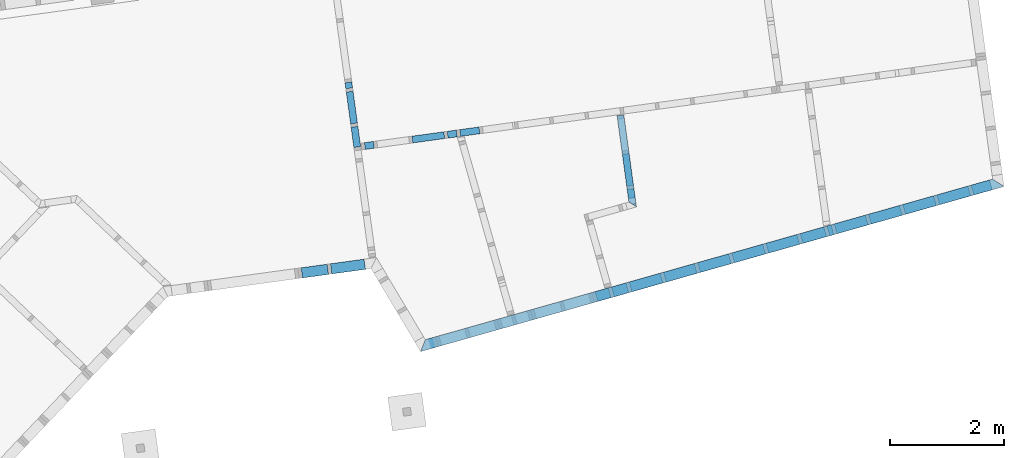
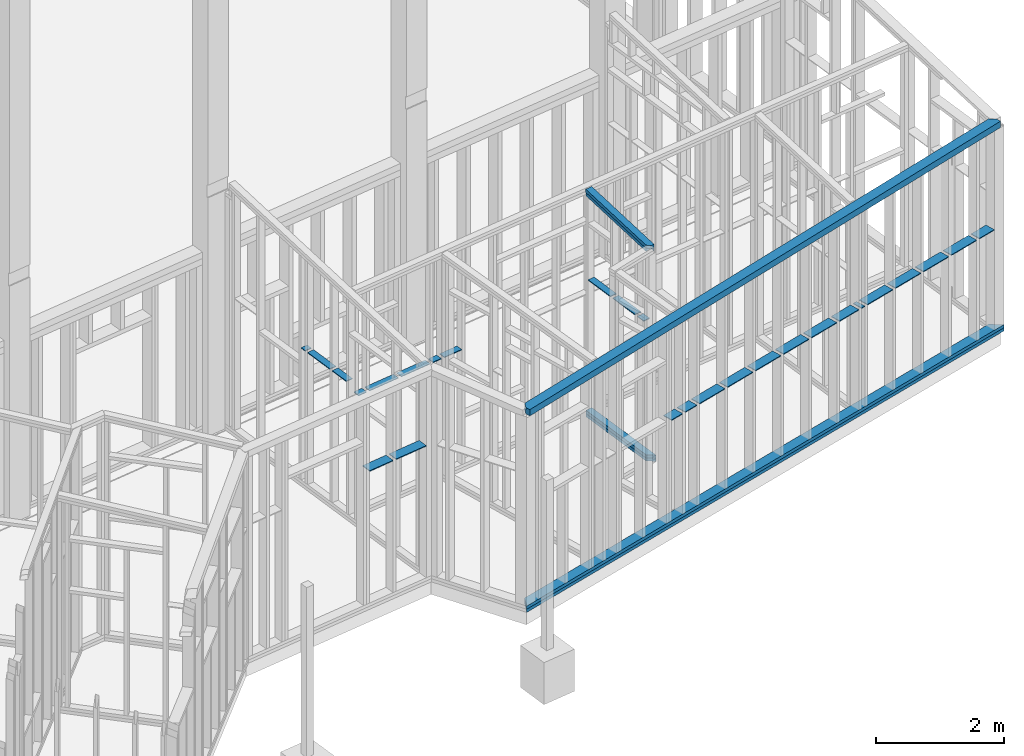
# One storey, part 19 of 24: 12 beams.
"""IFC2X3 building model written with IfcOpenShell, lengths in metres."""

from ifc_helpers import new_model, entity, si_unit, converted_unit, derived_unit, money_unit, direction, frame, frame_2d, origin_with_axes, place, context, subcontext, project, spatial, rectangle, extrude, boolean, clip, halfspace, faceted_brep, material, type_object, element, save


model = new_model("IFC2X3")

# Units and contexts
model_context = context("Model", 3, precision=1e-05, world=origin_with_axes(), true_north=direction((0.0, 1.0)))
body_context = subcontext(model_context, "Body", "Model", "MODEL_VIEW")
ifc_project = project(units=[si_unit("LENGTHUNIT", "METRE"), si_unit("AREAUNIT", "SQUARE_METRE"), si_unit("VOLUMEUNIT", "CUBIC_METRE"), converted_unit("PLANEANGLEUNIT", "DEGREE", entity("IfcPlaneAngleMeasure", 0.0174532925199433), si_unit("PLANEANGLEUNIT", "RADIAN"), dimensions=[0, 0, 0, 0, 0, 0, 0]), money_unit("EUR"), converted_unit("TIMEUNIT", "Year", entity("IfcTimeMeasure", 31557600.0), si_unit("TIMEUNIT", "SECOND"), dimensions=[0, 0, 1, 0, 0, 0, 0]), si_unit("MASSUNIT", "GRAM", prefix="KILO"), si_unit("THERMODYNAMICTEMPERATUREUNIT", "DEGREE_CELSIUS"), si_unit("LUMINOUSINTENSITYUNIT", "LUMEN"), si_unit("ENERGYUNIT", "JOULE", prefix="MEGA"), derived_unit("THERMALCONDUCTANCEUNIT", [(si_unit("POWERUNIT", "WATT"), 1), (si_unit("LENGTHUNIT", "METRE"), -1), (si_unit("THERMODYNAMICTEMPERATUREUNIT", "KELVIN"), -1)]), derived_unit("SPECIFICHEATCAPACITYUNIT", [(si_unit("ENERGYUNIT", "JOULE"), 1), (si_unit("MASSUNIT", "GRAM", prefix="KILO"), -1), (si_unit("THERMODYNAMICTEMPERATUREUNIT", "KELVIN"), -1)]), derived_unit("MASSDENSITYUNIT", [(si_unit("MASSUNIT", "GRAM", prefix="KILO"), 1), (si_unit("VOLUMEUNIT", "CUBIC_METRE"), -1)])], contexts=[model_context])

# Site, building, storey
site_placement = place(None, origin_with_axes())
site = spatial("IfcSite", under=ifc_project, at=site_placement, Name="Gelände", CompositionType="ELEMENT")
building_placement = place(site_placement, origin_with_axes())
building = spatial("IfcBuilding", under=site, at=building_placement, Name="Gebäude", CompositionType="ELEMENT")
storey_placement = place(building_placement, origin_with_axes())
storey = spatial("IfcBuildingStorey", under=building, at=storey_placement, Name="EG", CompositionType="ELEMENT", Elevation=0.0)

# Beams
ifc_material_1 = material(Name="Bauholz")
beam_type_1 = type_object("IfcBeamType", Name="Bauholz 120 x 60", PredefinedType="NOTDEFINED")
beam_1_placement = place(storey_placement, frame((107.3448837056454, -151.6508177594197, -0.04299999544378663), z_axis=(0.0, 0.0, 1.0), x_axis=(-0.9907486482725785, -0.1357096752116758, 0.0)))
element("IfcBeam", 1, at=beam_1_placement, inside=storey, type_object=beam_type_1, material=ifc_material_1, Name="Unterzug-021", context=body_context, shape_type="CSG", body=[
    boolean("DIFFERENCE", extrude(rectangle(XDim=0.06, YDim=0.12, at=frame_2d((-0.03, 0.0), x_axis=(1.0, 0.0))), frame((0.0, 0.0, 0.0), z_axis=(0.0, 1.0, 0.0), x_axis=(0.0, 0.0, 1.0)), (0.0, 0.0, 1.0), 1.634677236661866), faceted_brep([(-0.0600000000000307, 1.634657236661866, -0.06), (-0.0600000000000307, 1.634657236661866, 0.0), (-0.06000000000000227, 1.634677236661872, 0.0), (-0.06000000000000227, 1.634677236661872, -0.06), (0.05999999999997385, 1.530351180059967, 0.0), (0.05999999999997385, 1.530351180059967, -0.06), (0.05999999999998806, 1.634677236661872, 0.0), (0.05999999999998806, 1.634677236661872, -0.06)], [[[0, 1, 2, 3]], [[4, 1, 0, 5]], [[1, 4, 6, 2]], [[6, 7, 3, 2]], [[5, 0, 3, 7]], [[4, 5, 7, 6]]])),
])
beam_2_placement = place(storey_placement, frame((107.3447566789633, -151.6498904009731, 4.159963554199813), z_axis=(0.0, 0.0, 1.0), x_axis=(-0.9907486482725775, -0.1357096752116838, 0.0)))
element("IfcBeam", 2, at=beam_2_placement, inside=storey, type_object=beam_type_1, material=ifc_material_1, Name="Unterzug-021", context=body_context, shape_type="CSG", body=[
    boolean("DIFFERENCE", clip(clip(extrude(rectangle(XDim=0.06, YDim=0.12, at=frame_2d((-0.03, 0.0), x_axis=(1.0, 0.0))), frame((0.0, -0.02361845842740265, 0.003319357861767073), z_axis=(0.0, 0.9902680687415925, -0.1391731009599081), x_axis=(0.0, 0.1391731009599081, 0.9902680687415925)), (0.0, 0.0, 1.0), 1.682727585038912), halfspace(frame((0.0, 0.0, 0.0), z_axis=(0.0, 1.0, 0.0), x_axis=(0.0, 0.0, 1.0)), True)), halfspace(frame((0.0, 1.58344022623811, 0.0), z_axis=(0.0, -1.0, 0.0), x_axis=(0.0, 0.0, -1.0)), True)), faceted_brep([(0.06000000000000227, 1.524087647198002, -0.2747862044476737), (-0.004586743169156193, 1.58344022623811, -0.2831276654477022), (0.06000000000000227, 1.58344022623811, -0.2831276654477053), (0.004500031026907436, 1.58344022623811, -0.2225380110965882), (0.0600000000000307, 1.532438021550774, -0.2153701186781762), (0.06000000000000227, 1.58344022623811, -0.2225380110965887)], [[[0, 1, 2]], [[3, 1, 0, 4]], [[1, 3, 5, 2]], [[4, 0, 2, 5]], [[3, 4, 5]]])),
])
beam_type_2 = type_object("IfcBeamType", Name="Bauholz 120 x 15", PredefinedType="NOTDEFINED")
beam_3_placement = place(storey_placement, frame((104.864876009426, -151.9148134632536, 2.149999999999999), z_axis=(0.0, 0.0, 1.0), x_axis=(-0.1357111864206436, 0.9907484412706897, 0.0)))
element("IfcBeam", 3, at=beam_3_placement, inside=storey, type_object=beam_type_2, material=ifc_material_1, Name="Unterzug-021", context=body_context, shape_type="CSG", body=[
    boolean("DIFFERENCE", boolean("DIFFERENCE", boolean("DIFFERENCE", boolean("DIFFERENCE", extrude(rectangle(XDim=0.015, YDim=0.12, at=frame_2d((-0.0075, 0.0), x_axis=(1.0, 0.0))), frame((0.0, 0.0, 0.0), z_axis=(0.0, 1.0, 0.0), x_axis=(0.0, 0.0, 1.0)), (0.0, 0.0, 1.0), 2.034401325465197), faceted_brep([(-0.06000000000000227, 1.875000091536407, 0.0), (-0.06000000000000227, 1.875000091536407, -0.01500000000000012), (-0.06000000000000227, 1.815000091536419, -0.01500000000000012), (-0.06000000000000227, 1.815000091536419, 0.0), (0.05998872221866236, 1.875000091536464, 0.0), (0.05998872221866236, 1.875000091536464, -0.01500000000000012), (0.05998872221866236, 1.815000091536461, -0.01500000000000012), (0.05998872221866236, 1.815000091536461, 0.0)], [[[0, 1, 2, 3]], [[1, 0, 4, 5]], [[6, 2, 1, 5]], [[7, 3, 2, 6]], [[4, 0, 3, 7]], [[4, 7, 6, 5]]])), faceted_brep([(-0.06000000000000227, 1.250000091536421, 0.0), (-0.06000000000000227, 1.250000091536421, -0.01500000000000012), (-0.0600000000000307, 1.190000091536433, -0.01500000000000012), (-0.0600000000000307, 1.190000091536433, 0.0), (0.05998872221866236, 1.250000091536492, 0.0), (0.05998872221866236, 1.250000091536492, -0.01500000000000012), (0.05998872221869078, 1.190000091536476, -0.01500000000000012), (0.05998872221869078, 1.190000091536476, 0.0)], [[[0, 1, 2, 3]], [[1, 0, 4, 5]], [[6, 2, 1, 5]], [[7, 3, 2, 6]], [[4, 0, 3, 7]], [[4, 7, 6, 5]]])), faceted_brep([(-0.05999999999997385, 0.6250000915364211, 0.0), (-0.05999999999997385, 0.6250000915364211, -0.01500000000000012), (-0.06000000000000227, 0.5650000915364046, -0.01500000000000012), (-0.06000000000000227, 0.5650000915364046, 0.0), (0.05998872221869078, 0.625000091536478, 0.0), (0.05998872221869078, 0.625000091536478, -0.01500000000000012), (0.0599887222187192, 0.5650000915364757, -0.01500000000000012), (0.0599887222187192, 0.5650000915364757, 0.0)], [[[0, 1, 2, 3]], [[1, 0, 4, 5]], [[6, 2, 1, 5]], [[7, 3, 2, 6]], [[4, 0, 3, 7]], [[4, 7, 6, 5]]])), faceted_brep([(-0.0600000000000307, 0.4022557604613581, 0.0), (-0.0600000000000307, 0.4022557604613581, -0.01500000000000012), (-0.06000000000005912, 0.3422557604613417, -0.01500000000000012), (-0.06000000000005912, 0.3422557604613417, 0.0), (0.05998872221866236, 0.4022557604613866, 0.0), (0.05998872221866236, 0.4022557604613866, -0.01500000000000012), (0.05998872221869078, 0.3422557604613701, -0.01500000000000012), (0.05998872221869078, 0.3422557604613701, 0.0)], [[[0, 1, 2, 3]], [[1, 0, 4, 5]], [[6, 2, 1, 5]], [[7, 3, 2, 6]], [[4, 0, 3, 7]], [[4, 7, 6, 5]]])),
])
beam_4_placement = place(storey_placement, frame((107.3530262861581, -151.710262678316, 2.472000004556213), z_axis=(0.0, 0.0, 1.0), x_axis=(-0.9907486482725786, -0.1357096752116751, 0.0)))
element("IfcBeam", 4, at=beam_4_placement, inside=storey, type_object=beam_type_2, material=ifc_material_1, Name="Unterzug-021", context=body_context, shape_type="CSG", body=[
    boolean("DIFFERENCE", boolean("DIFFERENCE", extrude(rectangle(XDim=0.015, YDim=0.12, at=frame_2d((-0.0075, 0.0), x_axis=(1.0, 0.0))), frame((0.0, 0.0, 0.0), z_axis=(0.0, 1.0, 0.0), x_axis=(0.0, 0.0, 1.0)), (0.0, 0.0, 1.0), 1.410350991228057), faceted_brep([(-0.06000002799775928, 0.564999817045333, -0.01500000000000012), (-0.06000002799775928, 0.564999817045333, 0.0), (-0.06000011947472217, 0.6249998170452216, 0.0), (-0.06000011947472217, 0.6249998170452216, -0.01500000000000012), (0.05999997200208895, 0.5649999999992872, 0.0), (0.05999997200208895, 0.5649999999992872, -0.01500000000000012), (0.05999988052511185, 0.6249999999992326, 0.0), (0.05999988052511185, 0.6249999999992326, -0.01500000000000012)], [[[0, 1, 2, 3]], [[4, 1, 0, 5]], [[1, 4, 6, 2]], [[7, 3, 2, 6]], [[5, 0, 3, 7]], [[4, 5, 7, 6]]])), faceted_brep([(0.05999892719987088, 1.249999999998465, 0.0), (-0.06000107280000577, 1.249999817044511, 0.0), (-0.06000098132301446, 1.189999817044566, 0.0), (0.05999901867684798, 1.189999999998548, 0.0), (-0.06000107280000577, 1.249999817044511, -0.01500000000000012), (0.05999892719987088, 1.249999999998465, -0.01500000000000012), (-0.06000098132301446, 1.189999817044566, -0.01500000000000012), (0.05999901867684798, 1.189999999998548, -0.01500000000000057)], [[[0, 1, 2, 3]], [[4, 1, 0, 5]], [[1, 4, 6, 2]], [[7, 3, 2, 6]], [[5, 0, 3, 7]], [[4, 5, 7, 6]]])),
])
beam_5_placement = place(storey_placement, frame((102.5596748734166, -151.0713219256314, 2.472000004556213), z_axis=(0.0, 0.0, 1.0), x_axis=(-0.9907484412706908, -0.1357111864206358, 0.0)))
element("IfcBeam", 5, at=beam_5_placement, inside=storey, type_object=beam_type_2, material=ifc_material_1, Name="Unterzug-021", context=body_context, shape_type="CSG", body=[
    boolean("DIFFERENCE", boolean("DIFFERENCE", extrude(rectangle(XDim=0.015, YDim=0.12, at=frame_2d((-0.0075, 0.0), x_axis=(1.0, 0.0))), frame((0.0, 0.0, 0.0), z_axis=(0.0, 1.0, 0.0), x_axis=(0.0, 0.0, 1.0)), (0.0, 0.0, 1.0), 1.148540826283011), faceted_brep([(-0.06000188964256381, 0.1039657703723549, -0.01500000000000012), (-0.06000188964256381, 0.1039657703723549, 0.0), (-0.06000179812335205, 0.1639657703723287, 0.0), (-0.06000179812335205, 0.1639657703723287, -0.01500000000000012), (0.05999811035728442, 0.1039655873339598, 0.0), (0.05999811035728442, 0.1039655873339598, -0.01500000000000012), (0.05999820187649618, 0.1639655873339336, 0.0), (0.05999820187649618, 0.1639655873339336, -0.01500000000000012)], [[[0, 1, 2, 3]], [[4, 1, 0, 5]], [[1, 4, 6, 2]], [[7, 3, 2, 6]], [[5, 0, 3, 7]], [[4, 5, 7, 6]]])), faceted_brep([(-0.06000182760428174, 0.7289657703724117, -0.01500000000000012), (-0.06000182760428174, 0.7289657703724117, 0.0), (-0.06000173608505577, 0.7889657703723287, 0.0), (-0.06000173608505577, 0.7889657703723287, -0.01500000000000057), (0.05999817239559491, 0.7289655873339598, 0.0), (0.05999817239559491, 0.7289655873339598, -0.01500000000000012), (0.05999826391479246, 0.7889655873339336, 0.0), (0.05999826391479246, 0.7889655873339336, -0.01500000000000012)], [[[0, 1, 2, 3]], [[4, 1, 0, 5]], [[1, 4, 6, 2]], [[7, 3, 2, 6]], [[5, 0, 3, 7]], [[4, 5, 7, 6]]])),
])
ifc_material_2 = material(Name="Holz, Bauholz")
beam_type_3 = type_object("IfcBeamType", Name="Holz, Bauholz 120 x 60", PredefinedType="NOTDEFINED")
beam_6_placement = place(storey_placement, frame((107.3448837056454, -151.6508177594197, -0.1029999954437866), z_axis=(0.0, 0.0, 1.0), x_axis=(-0.9907486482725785, -0.1357096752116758, 0.0)))
element("IfcBeam", 6, at=beam_6_placement, inside=storey, type_object=beam_type_3, material=ifc_material_2, Name="Unterzug-021", context=body_context, shape_type="CSG", body=[
    boolean("DIFFERENCE", extrude(rectangle(XDim=0.06, YDim=0.12, at=frame_2d((-0.03, 0.0), x_axis=(1.0, 0.0))), frame((0.0, 0.0, 0.0), z_axis=(0.0, 1.0, 0.0), x_axis=(0.0, 0.0, 1.0)), (0.0, 0.0, 1.0), 1.634677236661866), faceted_brep([(-0.0600000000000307, 1.634657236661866, -0.06), (-0.0600000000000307, 1.634657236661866, 0.0), (-0.06000000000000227, 1.634677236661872, 0.0), (-0.06000000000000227, 1.634677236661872, -0.06), (0.05999999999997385, 1.530351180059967, 0.0), (0.05999999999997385, 1.530351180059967, -0.06), (0.05999999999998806, 1.634677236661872, 0.0), (0.05999999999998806, 1.634677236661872, -0.06)], [[[0, 1, 2, 3]], [[4, 1, 0, 5]], [[1, 4, 6, 2]], [[6, 7, 3, 2]], [[5, 0, 3, 7]], [[4, 5, 7, 6]]])),
])
beam_7_placement = place(storey_placement, frame((107.3448837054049, -151.6508177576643, 4.099242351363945), z_axis=(0.0, 0.0, 1.0), x_axis=(-0.9907486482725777, -0.1357096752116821, 0.0)))
element("IfcBeam", 7, at=beam_7_placement, inside=storey, type_object=beam_type_3, material=ifc_material_2, Name="Unterzug-021", context=body_context, shape_type="CSG", body=[
    boolean("DIFFERENCE", clip(clip(extrude(rectangle(XDim=0.06, YDim=0.12, at=frame_2d((-0.03, 0.0), x_axis=(1.0, 0.0))), frame((0.0, -0.02361845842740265, 0.003319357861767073), z_axis=(0.0, 0.9902680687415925, -0.1391731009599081), x_axis=(0.0, 0.1391731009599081, 0.9902680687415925)), (0.0, 0.0, 1.0), 1.690134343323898), halfspace(frame((0.0, 0.0, 0.0), z_axis=(0.0, 1.0, 0.0), x_axis=(0.0, 0.0, 1.0)), True)), halfspace(frame((0.0, 1.582504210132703, 0.0), z_axis=(0.0, -1.0, 0.0), x_axis=(0.0, 0.0, -1.0)), True)), faceted_brep([(-0.0504878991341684, 1.582504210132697, -0.2829961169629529), (-0.05266614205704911, 1.582504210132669, -0.280819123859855), (-0.05266614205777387, 1.582504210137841, -0.2224064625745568), (0.05999999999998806, 1.582504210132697, -0.2224064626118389), (0.05999999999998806, 1.582504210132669, -0.2829961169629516), (-0.0504878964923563, 1.567014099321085, -0.280819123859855), (-0.05106639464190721, 1.571127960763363, -0.2208076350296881), (-0.04328979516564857, 1.515826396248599, -0.273625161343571), (-0.04328979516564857, 1.515826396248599, -0.2208076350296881), (0.05320528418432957, 1.529395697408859, -0.2149425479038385), (0.05999998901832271, 1.530351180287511, -0.2150768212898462), (-1.861084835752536e-05, 1.578306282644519, -0.2218164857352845), (0.06000000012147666, 1.530351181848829, -0.2756664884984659), (0.05219437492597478, 1.529253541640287, -0.2226946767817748)], [[[0, 1, 2, 3, 4]], [[1, 0, 5]], [[6, 2, 1, 5, 7, 8]], [[9, 10, 3, 2, 6, 11]], [[10, 12, 4, 3]], [[5, 0, 4, 12, 7]], [[7, 12, 10, 9, 13, 8]], [[11, 6, 8, 13]], [[9, 11, 13]]])),
])
beam_type_4 = type_object("IfcBeamType", Name="Bauholz 180 x 120", PredefinedType="NOTDEFINED")
beam_8_placement = place(storey_placement, frame((103.8705043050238, -155.7018895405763, 3.658228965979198), z_axis=(0.0, 0.0, 1.0), x_axis=(0.2723508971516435, -0.9621979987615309, 0.0)))
element("IfcBeam", 8, at=beam_8_placement, inside=storey, type_object=beam_type_4, material=ifc_material_1, Name="Unterzug-035", context=body_context, shape_type="CSG", body=[
    boolean("DIFFERENCE", boolean("DIFFERENCE", boolean("DIFFERENCE", clip(clip(extrude(rectangle(XDim=0.12, YDim=0.18, at=frame_2d((-0.06, 0.0), x_axis=(1.0, 0.0))), frame((0.0, -0.07193537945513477, -0.001407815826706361), z_axis=(0.0, 0.9998085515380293, 0.01956681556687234), x_axis=(0.0, -0.01956681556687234, 0.9998085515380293)), (0.0, 0.0, 1.0), 10.66840358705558), halfspace(frame((0.0, 0.0, 0.0), z_axis=(0.0, 1.0, 0.0), x_axis=(0.0, 0.0, 1.0)), True)), halfspace(frame((0.0, 10.51852409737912, 0.0), z_axis=(0.0, -1.0, 0.0), x_axis=(0.0, 0.0, -1.0)), True)), faceted_brep([(0.006678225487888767, 0.0, 0.0), (-0.09000000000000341, 0.0695128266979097, 0.001360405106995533), (-0.09000000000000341, 0.0, 0.0), (-0.09000000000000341, 0.05985483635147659, -0.1188515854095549), (-0.006754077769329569, 0.0, -0.1200229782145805), (-0.09000000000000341, 0.0, -0.1200229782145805)], [[[0, 1, 2]], [[3, 1, 0, 4]], [[1, 3, 5, 2]], [[4, 0, 2, 5]], [[3, 4, 5]]])), faceted_brep([(-0.08758771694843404, 7.471707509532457, 0.1462255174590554), (-0.09000000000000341, 7.47204672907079, 0.1462321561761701), (-0.09000000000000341, 7.454553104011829, 0.1458897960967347), (-0.08758771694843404, 7.471707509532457, 0.0978258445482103), (-0.09000000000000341, 7.47204672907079, 0.0981682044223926), (-0.09000000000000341, 7.454553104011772, 0.0978258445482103)], [[[0, 1, 2]], [[1, 0, 3, 4]], [[5, 2, 1, 4]], [[0, 2, 5, 3]], [[5, 4, 3]]])), faceted_brep([(-0.09000000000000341, 10.44029443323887, 0.2043224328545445), (0.009847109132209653, 10.51852409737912, 0.2058534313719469), (-0.09000000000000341, 10.51852409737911, 0.2058534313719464), (-0.009847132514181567, 10.51852409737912, 0.08583045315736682), (-0.09000000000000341, 10.45572476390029, 0.08460143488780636), (-0.09000000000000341, 10.51852409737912, 0.08583045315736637)], [[[0, 1, 2]], [[3, 1, 0, 4]], [[1, 3, 5, 2]], [[4, 0, 2, 5]], [[3, 4, 5]]])),
])
beam_type_5 = type_object("IfcBeamType", Name="Holz, Bauholz 180 x 60", PredefinedType="NOTDEFINED")
beam_9_placement = place(storey_placement, frame((113.991407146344, -152.837160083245, -0.1030000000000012), z_axis=(0.0, 0.0, 1.0), x_axis=(-0.2723508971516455, 0.9621979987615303, 0.0)))
element("IfcBeam", 9, at=beam_9_placement, inside=storey, type_object=beam_type_5, material=ifc_material_2, Name="Unterzug-021", context=body_context, shape_type="CSG", body=[
    boolean("DIFFERENCE", boolean("DIFFERENCE", boolean("DIFFERENCE", extrude(rectangle(XDim=0.06, YDim=0.18, at=frame_2d((-0.03, 0.0), x_axis=(1.0, 0.0))), frame((0.0, -0.07824965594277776, 0.0), z_axis=(0.0, 1.0, 0.0), x_axis=(0.0, 0.0, 1.0)), (0.0, 0.0, 1.0), 10.66588382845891), faceted_brep([(-0.09000000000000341, 10.58761417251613, 0.0), (0.09000000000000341, 10.44943364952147, 0.0), (0.09000000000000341, 10.58763417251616, 0.0), (-0.09000000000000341, 10.58763417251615, 0.0), (0.09000000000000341, 10.44943364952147, -0.05999999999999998), (-0.09000000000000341, 10.58761417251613, -0.06000000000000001), (0.09000000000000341, 10.58763417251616, -0.05999999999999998), (-0.09000000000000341, 10.58763417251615, -0.05999999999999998)], [[[0, 1, 2, 3]], [[4, 1, 0, 5]], [[1, 4, 6, 2]], [[2, 6, 7, 3]], [[5, 0, 3, 7]], [[4, 5, 7, 6]]])), faceted_brep([(0.08856835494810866, 3.046678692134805, 4.556214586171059e-09), (0.09000000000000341, 3.046477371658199, 4.556214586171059e-09), (0.09000000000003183, 3.056859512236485, 4.556214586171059e-09), (0.08856835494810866, 3.046678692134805, -0.05999999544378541), (0.09000000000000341, 3.046477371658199, -0.05999999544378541), (0.09000000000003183, 3.056859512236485, -0.05999999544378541)], [[[0, 1, 2]], [[1, 0, 3, 4]], [[5, 2, 1, 4]], [[0, 2, 5, 3]], [[3, 5, 4]]])), faceted_brep([(0.09000000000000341, 0.07822965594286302, 0.0), (-0.09000000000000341, -0.07822965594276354, 0.0), (-0.09000000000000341, -0.07824965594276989, 0.0), (0.09000000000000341, -0.07824965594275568, 0.0), (-0.09000000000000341, -0.07822965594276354, -0.06000000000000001), (0.09000000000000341, 0.07822965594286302, -0.05999999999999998), (-0.09000000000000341, -0.07824965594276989, -0.05999999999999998), (0.09000000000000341, -0.07824965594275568, -0.05999999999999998)], [[[0, 1, 2, 3]], [[4, 1, 0, 5]], [[1, 4, 6, 2]], [[6, 7, 3, 2]], [[5, 0, 3, 7]], [[4, 5, 7, 6]]])),
])
beam_type_6 = type_object("IfcBeamType", Name="Bauholz 180 x 60", PredefinedType="NOTDEFINED")
beam_10_placement = place(storey_placement, frame((113.991407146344, -152.837160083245, -0.04300000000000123), z_axis=(0.0, 0.0, 1.0), x_axis=(-0.2723508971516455, 0.9621979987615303, 0.0)))
element("IfcBeam", 10, at=beam_10_placement, inside=storey, type_object=beam_type_6, material=ifc_material_1, Name="Unterzug-021", context=body_context, shape_type="CSG", body=[
    boolean("DIFFERENCE", boolean("DIFFERENCE", boolean("DIFFERENCE", extrude(rectangle(XDim=0.06, YDim=0.18, at=frame_2d((-0.03, 0.0), x_axis=(1.0, 0.0))), frame((0.0, -0.07824965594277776, 0.0), z_axis=(0.0, 1.0, 0.0), x_axis=(0.0, 0.0, 1.0)), (0.0, 0.0, 1.0), 10.66588382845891), faceted_brep([(-0.09000000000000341, 10.58761417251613, 0.0), (0.09000000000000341, 10.44943364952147, 0.0), (0.09000000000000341, 10.58763417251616, 0.0), (-0.09000000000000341, 10.58763417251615, 0.0), (0.09000000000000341, 10.44943364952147, -0.06), (-0.09000000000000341, 10.58761417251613, -0.06), (0.09000000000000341, 10.58763417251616, -0.06), (-0.09000000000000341, 10.58763417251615, -0.06)], [[[0, 1, 2, 3]], [[4, 1, 0, 5]], [[1, 4, 6, 2]], [[2, 6, 7, 3]], [[5, 0, 3, 7]], [[4, 5, 7, 6]]])), faceted_brep([(0.08856835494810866, 3.046678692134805, 4.556214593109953e-09), (0.09000000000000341, 3.046477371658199, 4.556214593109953e-09), (0.09000000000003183, 3.056859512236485, 4.556214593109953e-09), (0.08856835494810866, 3.046678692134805, -0.0599999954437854), (0.09000000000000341, 3.046477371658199, -0.0599999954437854), (0.09000000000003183, 3.056859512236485, -0.0599999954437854)], [[[0, 1, 2]], [[1, 0, 3, 4]], [[5, 2, 1, 4]], [[0, 2, 5, 3]], [[3, 5, 4]]])), faceted_brep([(0.09000000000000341, 0.07822965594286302, 0.0), (-0.09000000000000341, -0.07822965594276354, 0.0), (-0.09000000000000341, -0.07824965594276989, 0.0), (0.09000000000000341, -0.07824965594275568, 0.0), (-0.09000000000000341, -0.07822965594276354, -0.06), (0.09000000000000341, 0.07822965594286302, -0.06), (-0.09000000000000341, -0.07824965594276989, -0.06), (0.09000000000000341, -0.07824965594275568, -0.06)], [[[0, 1, 2, 3]], [[4, 1, 0, 5]], [[1, 4, 6, 2]], [[6, 7, 3, 2]], [[5, 0, 3, 7]], [[4, 5, 7, 6]]])),
])
beam_type_7 = type_object("IfcBeamType", Name="Bauholz 180 x 15", PredefinedType="NOTDEFINED")
beam_11_placement = place(storey_placement, frame((113.8584007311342, -152.874807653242, 1.871999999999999), z_axis=(0.0, 0.0, 1.0), x_axis=(-0.2723508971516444, 0.9621979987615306, 0.0)))
solid = boolean("DIFFERENCE", boolean("DIFFERENCE", boolean("DIFFERENCE", boolean("DIFFERENCE", boolean("DIFFERENCE", boolean("DIFFERENCE", boolean("DIFFERENCE", boolean("DIFFERENCE", extrude(rectangle(XDim=0.015, YDim=0.18, at=frame_2d((-0.0075, 0.0), x_axis=(1.0, 0.0))), frame((0.0, 0.0, 0.0), z_axis=(0.0, 1.0, 0.0), x_axis=(0.0, 0.0, 1.0)), (0.0, 0.0, 1.0), 7.208697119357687), faceted_brep([(-0.08999930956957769, 0.3336971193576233, -0.01499999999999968), (-0.08999930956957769, 0.3336971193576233, 0.0), (-0.0899987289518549, 0.3936971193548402, 0.0), (-0.0899987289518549, 0.3936971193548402, -0.0149999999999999), (0.09000069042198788, 0.3336953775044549, 0.0), (0.09000069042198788, 0.3336953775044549, -0.0149999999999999), (0.09000127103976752, 0.3936953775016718, 0.0), (0.09000127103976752, 0.3936953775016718, -0.01499999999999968)], [[[0, 1, 2, 3]], [[4, 1, 0, 5]], [[1, 4, 6, 2]], [[7, 3, 2, 6]], [[5, 0, 3, 7]], [[4, 5, 7, 6]]])), faceted_brep([(-0.08999930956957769, 0.9586971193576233, -0.01500000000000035), (-0.08999930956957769, 0.9586971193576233, 0.0), (-0.0899987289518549, 1.01869711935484, 0.0), (-0.0899987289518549, 1.01869711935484, -0.0149999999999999), (0.09000069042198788, 0.9586953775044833, 0.0), (0.09000069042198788, 0.9586953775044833, -0.01499999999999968), (0.09000127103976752, 1.018695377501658, 0.0), (0.09000127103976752, 1.018695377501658, -0.01499999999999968)], [[[0, 1, 2, 3]], [[4, 1, 0, 5]], [[1, 4, 6, 2]], [[7, 3, 2, 6]], [[5, 0, 3, 7]], [[4, 5, 7, 6]]])), faceted_brep([(-0.08999930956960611, 1.583697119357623, -0.0149999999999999), (-0.08999930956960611, 1.583697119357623, 0.0), (-0.08999872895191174, 1.64369711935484, 0.0), (-0.08999872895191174, 1.64369711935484, -0.0149999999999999), (0.0900006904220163, 1.583695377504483, 0.0), (0.0900006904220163, 1.583695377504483, -0.01499999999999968), (0.0900012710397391, 1.643695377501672, 0.0), (0.0900012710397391, 1.643695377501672, -0.01499999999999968)], [[[0, 1, 2, 3]], [[4, 1, 0, 5]], [[1, 4, 6, 2]], [[7, 3, 2, 6]], [[5, 0, 3, 7]], [[4, 5, 7, 6]]])), faceted_brep([(-0.08999930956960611, 2.208697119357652, -0.0149999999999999), (-0.08999930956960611, 2.208697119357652, 0.0), (-0.0899987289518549, 2.26869711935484, 0.0), (-0.0899987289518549, 2.26869711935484, -0.0149999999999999), (0.0900006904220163, 2.208695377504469, 0.0), (0.0900006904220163, 2.208695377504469, -0.01499999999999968), (0.09000127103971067, 2.268695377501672, 0.0), (0.09000127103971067, 2.268695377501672, -0.01499999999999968)], [[[0, 1, 2, 3]], [[4, 1, 0, 5]], [[1, 4, 6, 2]], [[7, 3, 2, 6]], [[5, 0, 3, 7]], [[4, 5, 7, 6]]])), faceted_brep([(-0.08999930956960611, 2.833697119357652, -0.0149999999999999), (-0.08999930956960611, 2.833697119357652, 0.0), (-0.08999872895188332, 2.89369711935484, 0.0), (-0.08999872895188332, 2.89369711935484, -0.0149999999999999), (0.09000069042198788, 2.833695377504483, 0.0), (0.09000069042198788, 2.833695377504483, -0.01499999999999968), (0.09000127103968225, 2.893695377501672, 0.0), (0.09000127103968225, 2.893695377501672, -0.01499999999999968)], [[[0, 1, 2, 3]], [[4, 1, 0, 5]], [[1, 4, 6, 2]], [[7, 3, 2, 6]], [[5, 0, 3, 7]], [[4, 5, 7, 6]]])), faceted_brep([(-0.0899995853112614, 2.967318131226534, -0.01500000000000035), (-0.0899995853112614, 2.967318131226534, 0.0), (-0.08999900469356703, 3.027318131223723, 0.0), (-0.08999900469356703, 3.027318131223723, -0.0149999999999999), (0.09000069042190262, 2.967316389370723, 0.0), (0.09000069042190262, 2.967316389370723, -0.01499999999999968), (0.09000127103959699, 3.027316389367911, 0.0), (0.09000127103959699, 3.027316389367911, -0.01499999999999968)], [[[0, 1, 2, 3]], [[4, 1, 0, 5]], [[1, 4, 6, 2]], [[2, 6, 7, 3]], [[5, 0, 3, 7]], [[4, 5, 7, 6]]])), faceted_brep([(-0.08999930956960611, 3.458697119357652, -0.0149999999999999), (-0.08999930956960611, 3.458697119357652, 0.0), (-0.08999872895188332, 3.518697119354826, 0.0), (-0.08999872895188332, 3.518697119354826, -0.0149999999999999), (0.09000069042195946, 3.458695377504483, 0.0), (0.09000069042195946, 3.458695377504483, -0.01499999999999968), (0.09000127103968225, 3.518695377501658, 0.0), (0.09000127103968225, 3.518695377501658, -0.01499999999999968)], [[[0, 1, 2, 3]], [[4, 1, 0, 5]], [[1, 4, 6, 2]], [[7, 3, 2, 6]], [[5, 0, 3, 7]], [[4, 5, 7, 6]]])), faceted_brep([(-0.08999930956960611, 4.083697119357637, -0.01500000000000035), (-0.08999930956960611, 4.083697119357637, 0.0), (-0.08999872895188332, 4.143697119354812, 0.0), (-0.08999872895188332, 4.143697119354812, -0.0149999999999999), (0.09000069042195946, 4.083695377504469, 0.0), (0.09000069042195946, 4.083695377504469, -0.01499999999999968), (0.09000127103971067, 4.143695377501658, 0.0), (0.09000127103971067, 4.143695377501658, -0.01499999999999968)], [[[0, 1, 2, 3]], [[4, 1, 0, 5]], [[1, 4, 6, 2]], [[7, 3, 2, 6]], [[5, 0, 3, 7]], [[4, 5, 7, 6]]]))
element("IfcBeam", 11, at=beam_11_placement, inside=storey, type_object=beam_type_7, material=ifc_material_1, Name="Unterzug-021", context=body_context, shape_type="CSG", body=[
    boolean("DIFFERENCE", boolean("DIFFERENCE", boolean("DIFFERENCE", boolean("DIFFERENCE", boolean("DIFFERENCE", solid, faceted_brep([(-0.08999930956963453, 4.708697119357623, -0.0149999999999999), (-0.08999930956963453, 4.708697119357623, 0.0), (-0.08999872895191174, 4.768697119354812, 0.0), (-0.08999872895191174, 4.768697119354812, -0.0149999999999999), (0.09000069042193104, 4.708695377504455, 0.0), (0.09000069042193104, 4.708695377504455, -0.01499999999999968), (0.09000127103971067, 4.768695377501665, 0.0), (0.09000127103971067, 4.768695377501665, -0.01499999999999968)], [[[0, 1, 2, 3]], [[4, 1, 0, 5]], [[1, 4, 6, 2]], [[7, 3, 2, 6]], [[5, 0, 3, 7]], [[4, 5, 7, 6]]])), faceted_brep([(-0.08999930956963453, 5.333697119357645, -0.0149999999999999), (-0.08999930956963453, 5.333697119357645, 0.0), (-0.08999872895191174, 5.393697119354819, 0.0), (-0.08999872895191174, 5.393697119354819, -0.01500000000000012), (0.09000069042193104, 5.333695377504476, 0.0), (0.09000069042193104, 5.333695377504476, -0.01499999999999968), (0.09000127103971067, 5.393695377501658, 0.0), (0.09000127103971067, 5.393695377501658, -0.01499999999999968)], [[[0, 1, 2, 3]], [[4, 1, 0, 5]], [[1, 4, 6, 2]], [[7, 3, 2, 6]], [[5, 0, 3, 7]], [[4, 5, 7, 6]]])), faceted_brep([(-0.08999930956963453, 5.958697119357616, -0.01500000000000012), (-0.08999930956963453, 5.958697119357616, 0.0), (-0.08999872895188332, 6.01869711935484, 0.0), (-0.08999872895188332, 6.01869711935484, -0.01500000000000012), (0.09000069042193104, 5.958695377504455, 0.0), (0.09000069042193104, 5.958695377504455, -0.01499999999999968), (0.09000127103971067, 6.018695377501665, 0.0), (0.09000127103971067, 6.018695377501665, -0.01499999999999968)], [[[0, 1, 2, 3]], [[4, 1, 0, 5]], [[1, 4, 6, 2]], [[7, 3, 2, 6]], [[5, 0, 3, 7]], [[4, 5, 7, 6]]])), faceted_brep([(-0.08999930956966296, 6.58369711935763, -0.01500000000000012), (-0.08999930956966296, 6.58369711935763, 0.0), (-0.08999872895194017, 6.643697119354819, 0.0), (-0.08999872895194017, 6.643697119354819, -0.01500000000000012), (0.09000069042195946, 6.583695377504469, 0.0), (0.09000069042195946, 6.583695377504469, -0.0149999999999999), (0.09000127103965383, 6.643695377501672, 0.0), (0.09000127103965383, 6.643695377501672, -0.01499999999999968)], [[[0, 1, 2, 3]], [[4, 1, 0, 5]], [[1, 4, 6, 2]], [[7, 3, 2, 6]], [[5, 0, 3, 7]], [[4, 5, 7, 6]]])), faceted_brep([(-0.08999946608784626, 6.905880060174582, -0.01500000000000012), (-0.08999946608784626, 6.905880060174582, 0.0), (-0.08999888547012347, 6.965880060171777, 0.0), (-0.08999888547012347, 6.965880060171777, -0.0149999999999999), (0.0900006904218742, 6.905878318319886, 0.0), (0.0900006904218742, 6.905878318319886, -0.01499999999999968), (0.09000127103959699, 6.965878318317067, 0.0), (0.09000127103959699, 6.965878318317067, -0.0149999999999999)], [[[0, 1, 2, 3]], [[4, 1, 0, 5]], [[1, 4, 6, 2]], [[7, 3, 2, 6]], [[5, 0, 3, 7]], [[4, 5, 7, 6]]])),
])
beam_12_placement = place(storey_placement, frame((101.7405742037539, -154.4213334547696, 2.471999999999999), z_axis=(0.0, 0.0, 1.0), x_axis=(0.1357111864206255, -0.9907484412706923, 0.0)))
element("IfcBeam", 12, at=beam_12_placement, inside=storey, type_object=beam_type_7, material=ifc_material_1, Name="Unterzug-021", context=body_context, shape_type="CSG", body=[
    boolean("DIFFERENCE", extrude(rectangle(XDim=0.015, YDim=0.18, at=frame_2d((-0.0075, 0.0), x_axis=(1.0, 0.0))), frame((0.0, 0.0, 0.0), z_axis=(0.0, 1.0, 0.0), x_axis=(0.0, 0.0, 1.0)), (0.0, 0.0, 1.0), 1.116536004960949), faceted_brep([(0.09000002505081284, 0.5215360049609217, -0.01500000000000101), (0.09000002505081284, 0.5215360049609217, 0.0), (0.090000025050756, 0.4615360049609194, 0.0), (0.090000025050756, 0.4615360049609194, -0.01500000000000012), (-0.08999997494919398, 0.5215360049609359, 0.0), (-0.08999997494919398, 0.5215360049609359, -0.01500000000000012), (-0.08999997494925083, 0.4615360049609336, 0.0), (-0.08999997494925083, 0.4615360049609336, -0.01500000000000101)], [[[0, 1, 2, 3]], [[4, 1, 0, 5]], [[1, 4, 6, 2]], [[7, 3, 2, 6]], [[5, 0, 3, 7]], [[4, 5, 7, 6]]])),
])

save(model, "model.ifc")
